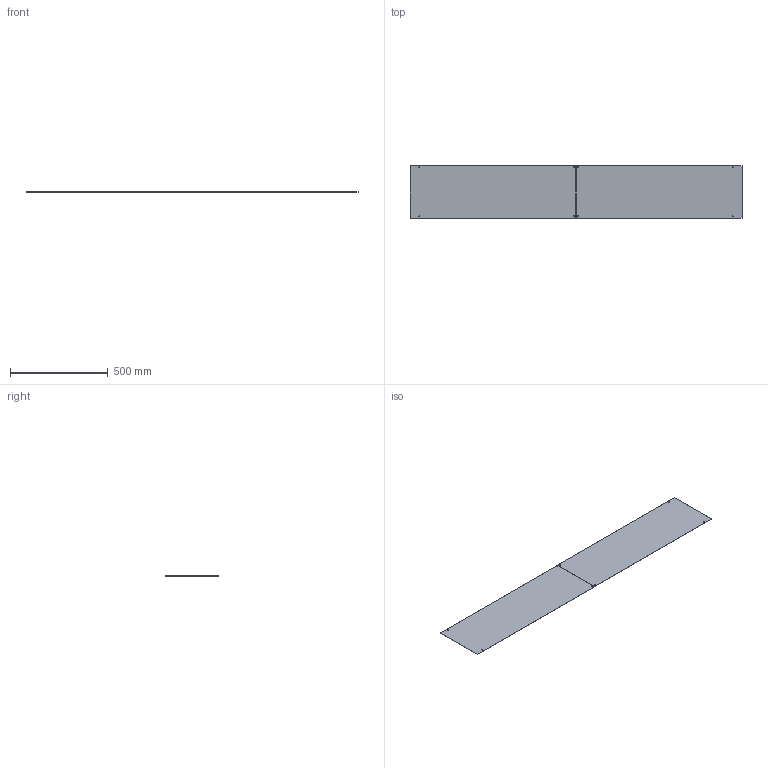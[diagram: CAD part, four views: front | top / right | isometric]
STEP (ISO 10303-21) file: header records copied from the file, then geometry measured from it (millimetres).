
FILE_DESCRIPTION(/* description */ (''),/* implementation_level */ '2;1');
FILE_NAME(/* name */ 'FRFA3E~1',/* time_stamp */ '2014-02-14T19:52:50+01:00',/* author */ (''),/* organization */ (''),/* preprocessor_version */ 'ST-DEVELOPER v14',/* originating_system */ '',/* authorisation */ '');
FILE_SCHEMA (('AUTOMOTIVE_DESIGN'));
Length unit declared in the file: millimetre
Products named in the file (1): Document
Bounding box: 1696 x 268 x 1 mm (x, y, z)
Volume: 453834.6 mm3; surface area: 912255.6 mm2
Topology: 2 solids, 2 shells, 28 faces, 72 edges, 48 vertices
Faces by surface type: bspline 16, plane 12
Entity records: 1931 total; most frequent: CARTESIAN_POINT 974, ORIENTED_EDGE 144, PCURVE 144, DEFINITIONAL_REPRESENTATION 144, B_SPLINE_CURVE_WITH_KNOTS 136, SURFACE_CURVE 72, EDGE_CURVE 72, VERTEX_POINT 48
